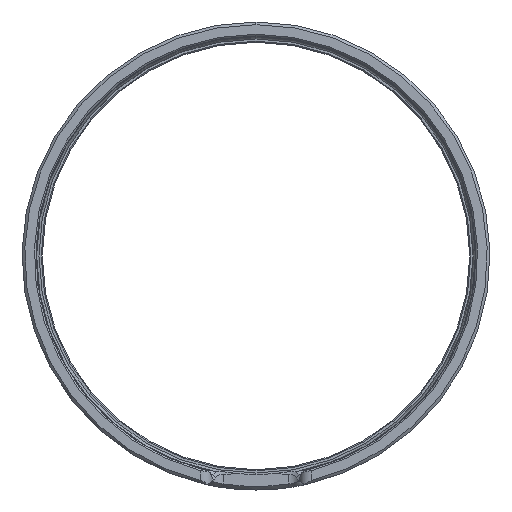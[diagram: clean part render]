
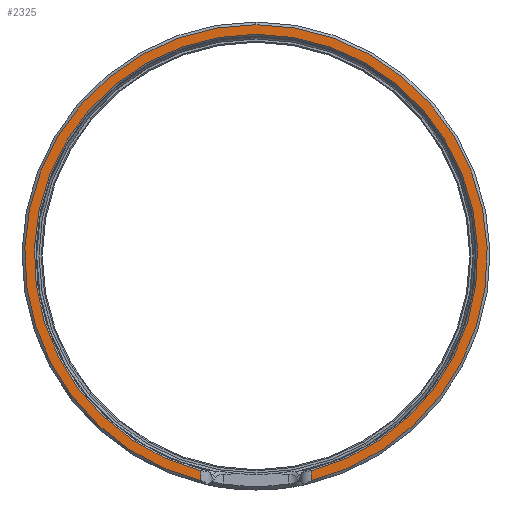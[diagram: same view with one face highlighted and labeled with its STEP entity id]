
A CAD part, left-side view. The second image highlights one B-rep face of the part: STEP entity #2325.
In plain terms, the highlighted planar face has unit normal (-1, 0, 0).
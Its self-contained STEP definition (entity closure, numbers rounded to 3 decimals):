
#160 = EDGE_CURVE ( 'NONE', #2802, #1407, #1387, .T. ) ;
#324 = DIRECTION ( 'NONE',  ( 0., 0., -1. ) ) ;
#446 = EDGE_LOOP ( 'NONE', ( #4710, #1001, #5243, #4673, #4434 ) ) ;
#453 = CARTESIAN_POINT ( 'NONE',  ( -300., 10.2, -41.515 ) ) ;
#519 = CARTESIAN_POINT ( 'NONE',  ( -300., 0., 42.75 ) ) ;
#553 = LINE ( 'NONE', #1403, #5707 ) ;
#585 = DIRECTION ( 'NONE',  ( 0., 0., 1. ) ) ;
#1001 = ORIENTED_EDGE ( 'NONE', *, *, #3656, .T. ) ;
#1161 = DIRECTION ( 'NONE',  ( 0., 0., 1. ) ) ;
#1296 = CARTESIAN_POINT ( 'NONE',  ( -300., 0., 0. ) ) ;
#1387 = LINE ( 'NONE', #2833, #4472 ) ;
#1403 = CARTESIAN_POINT ( 'NONE',  ( -300., 10.2, -43.25 ) ) ;
#1404 = CARTESIAN_POINT ( 'NONE',  ( -300., -10.2, -39.685 ) ) ;
#1407 = VERTEX_POINT ( 'NONE', #1404 ) ;
#1602 = CARTESIAN_POINT ( 'NONE',  ( -300., 0., 0. ) ) ;
#1911 = CIRCLE ( 'NONE', #5291, 40.975 ) ;
#2163 = CARTESIAN_POINT ( 'NONE',  ( -300., -10.2, -41.515 ) ) ;
#2202 = CIRCLE ( 'NONE', #2689, 42.75 ) ;
#2325 = ADVANCED_FACE ( 'NONE', ( #3615 ), #5424, .T. ) ;
#2689 = AXIS2_PLACEMENT_3D ( 'NONE', #5454, #3144, #4101 ) ;
#2802 = VERTEX_POINT ( 'NONE', #2163 ) ;
#2833 = CARTESIAN_POINT ( 'NONE',  ( -300., -10.2, -43.25 ) ) ;
#2969 = VERTEX_POINT ( 'NONE', #519 ) ;
#2982 = CARTESIAN_POINT ( 'NONE',  ( -300., 10.2, -39.685 ) ) ;
#3050 = DIRECTION ( 'NONE',  ( 0., 0., 1. ) ) ;
#3144 = DIRECTION ( 'NONE',  ( -1., 0., 0. ) ) ;
#3280 = EDGE_CURVE ( 'NONE', #2969, #5313, #2202, .T. ) ;
#3553 = CIRCLE ( 'NONE', #5568, 42.75 ) ;
#3615 = FACE_OUTER_BOUND ( 'NONE', #446, .T. ) ;
#3656 = EDGE_CURVE ( 'NONE', #2802, #2969, #3553, .T. ) ;
#4092 = VERTEX_POINT ( 'NONE', #2982 ) ;
#4101 = DIRECTION ( 'NONE',  ( 0., 0., 1. ) ) ;
#4156 = DIRECTION ( 'NONE',  ( 0., 0., 1. ) ) ;
#4434 = ORIENTED_EDGE ( 'NONE', *, *, #5167, .F. ) ;
#4472 = VECTOR ( 'NONE', #4156, 1000. ) ;
#4673 = ORIENTED_EDGE ( 'NONE', *, *, #5871, .T. ) ;
#4680 = AXIS2_PLACEMENT_3D ( 'NONE', #1296, #5511, #324 ) ;
#4710 = ORIENTED_EDGE ( 'NONE', *, *, #160, .F. ) ;
#4745 = CARTESIAN_POINT ( 'NONE',  ( -300., 0., 0. ) ) ;
#4810 = DIRECTION ( 'NONE',  ( -1., 0., 0. ) ) ;
#4852 = DIRECTION ( 'NONE',  ( -1., 0., 0. ) ) ;
#5167 = EDGE_CURVE ( 'NONE', #1407, #4092, #1911, .T. ) ;
#5243 = ORIENTED_EDGE ( 'NONE', *, *, #3280, .T. ) ;
#5291 = AXIS2_PLACEMENT_3D ( 'NONE', #4745, #4810, #1161 ) ;
#5313 = VERTEX_POINT ( 'NONE', #453 ) ;
#5424 = PLANE ( 'NONE',  #4680 ) ;
#5454 = CARTESIAN_POINT ( 'NONE',  ( -300., 0., 0. ) ) ;
#5511 = DIRECTION ( 'NONE',  ( -1., 0., 0. ) ) ;
#5568 = AXIS2_PLACEMENT_3D ( 'NONE', #1602, #4852, #3050 ) ;
#5707 = VECTOR ( 'NONE', #585, 1000. ) ;
#5871 = EDGE_CURVE ( 'NONE', #5313, #4092, #553, .T. ) ;
